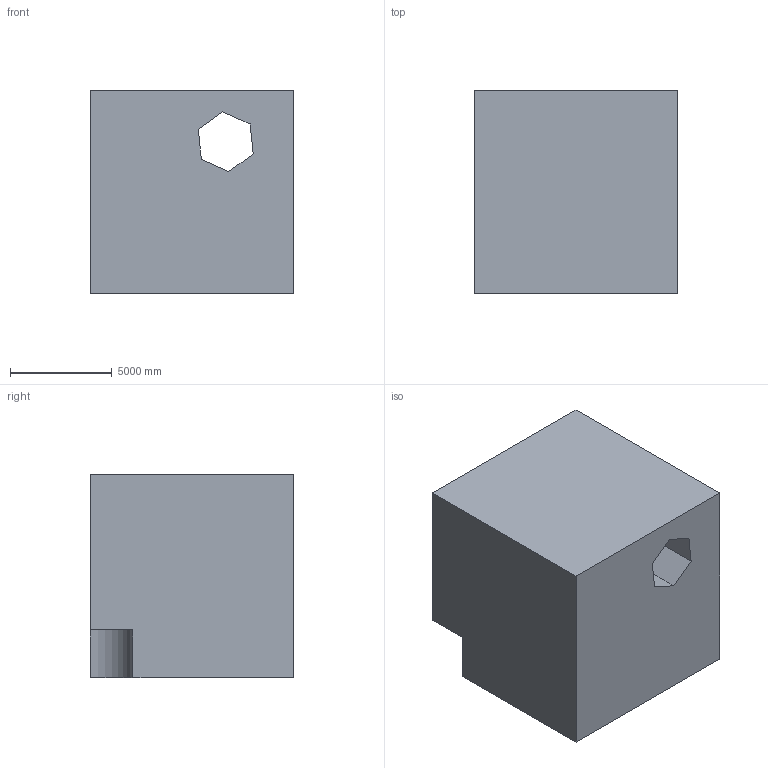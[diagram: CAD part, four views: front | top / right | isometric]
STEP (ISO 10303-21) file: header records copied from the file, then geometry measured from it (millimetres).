
FILE_DESCRIPTION (( 'STEP AP203' ), '1' );
FILE_NAME ('1140.STEP', '2022-08-18T12:55:09', ( 'user' ), ( '' ), 'SwSTEP 2.0', 'SolidWorks 2021', '' );
FILE_SCHEMA (( 'CONFIG_CONTROL_DESIGN' ));
Length unit declared in the file: centimetre
Products named in the file (1): 1140
Bounding box: 10000 x 10000 x 10000 mm (x, y, z)
Volume: 935046317825 mm3; surface area: 675269389.9 mm2
Topology: 1 solids, 1 shells, 14 faces, 36 edges, 24 vertices
Faces by surface type: plane 13, cylinder 1
Entity records: 503 total; most frequent: CARTESIAN_POINT 75, ORIENTED_EDGE 72, DIRECTION 68, EDGE_CURVE 36, LINE 34, VECTOR 34, VERTEX_POINT 24, AXIS2_PLACEMENT_3D 17
